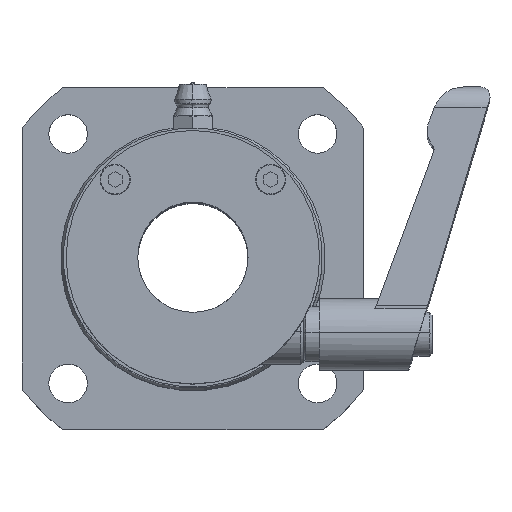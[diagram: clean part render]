
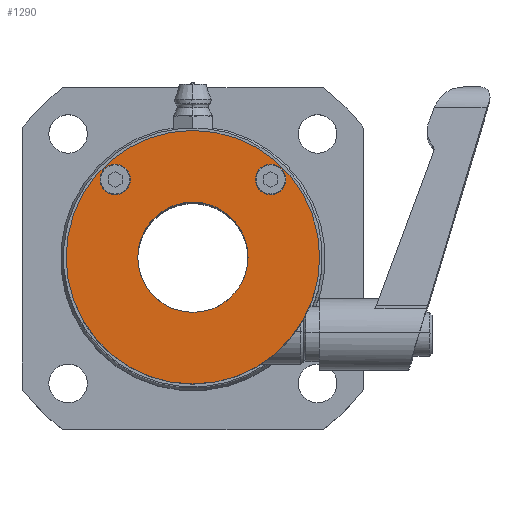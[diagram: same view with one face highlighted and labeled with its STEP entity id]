
A CAD part, top view. The second image highlights one B-rep face of the part: STEP entity #1290.
In plain terms, the highlighted planar face has unit normal (0, 0, 1).
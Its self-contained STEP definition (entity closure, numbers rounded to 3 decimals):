
#30 = CARTESIAN_POINT ( 'NONE',  ( 1.414, 7.231, 52.89 ) ) ;
#181 = DIRECTION ( 'NONE',  ( 0., 0., 1. ) ) ;
#262 = VERTEX_POINT ( 'NONE', #6015 ) ;
#357 = DIRECTION ( 'NONE',  ( 0., -1., 0. ) ) ;
#365 = FACE_OUTER_BOUND ( 'NONE', #8861, .T. ) ;
#383 = ORIENTED_EDGE ( 'NONE', *, *, #7475, .F. ) ;
#457 = DIRECTION ( 'NONE',  ( 1., 0., 0. ) ) ;
#524 = CARTESIAN_POINT ( 'NONE',  ( 15.514, 21.331, 52.89 ) ) ;
#587 = DIRECTION ( 'NONE',  ( 0., 0., 1. ) ) ;
#640 = DIRECTION ( 'NONE',  ( 0., -1., 0. ) ) ;
#895 = CARTESIAN_POINT ( 'NONE',  ( -15.436, 21.331, 52.89 ) ) ;
#1077 = EDGE_CURVE ( 'NONE', #5331, #1772, #7971, .T. ) ;
#1083 = CARTESIAN_POINT ( 'NONE',  ( 1.414, 30.231, 52.89 ) ) ;
#1234 = AXIS2_PLACEMENT_3D ( 'NONE', #2809, #2745, #7185 ) ;
#1290 = ADVANCED_FACE ( 'NONE', ( #5433, #8092, #365, #6366 ), #9823, .T. ) ;
#1406 = VERTEX_POINT ( 'NONE', #1427 ) ;
#1427 = CARTESIAN_POINT ( 'NONE',  ( 1.414, -2.769, 52.89 ) ) ;
#1562 = AXIS2_PLACEMENT_3D ( 'NONE', #7108, #2904, #6355 ) ;
#1735 = DIRECTION ( 'NONE',  ( 0., -1., 0. ) ) ;
#1772 = VERTEX_POINT ( 'NONE', #9275 ) ;
#2189 = AXIS2_PLACEMENT_3D ( 'NONE', #30, #6954, #3533 ) ;
#2525 = EDGE_CURVE ( 'NONE', #7467, #1406, #9821, .T. ) ;
#2572 = CARTESIAN_POINT ( 'NONE',  ( 1.414, 7.231, 52.89 ) ) ;
#2745 = DIRECTION ( 'NONE',  ( 0., 0., 1. ) ) ;
#2809 = CARTESIAN_POINT ( 'NONE',  ( 15.514, 21.331, 52.89 ) ) ;
#2811 = CIRCLE ( 'NONE', #5677, 10. ) ;
#2904 = DIRECTION ( 'NONE',  ( 0., 0., 1. ) ) ;
#3222 = ORIENTED_EDGE ( 'NONE', *, *, #3397, .F. ) ;
#3248 = EDGE_LOOP ( 'NONE', ( #7592, #8229 ) ) ;
#3397 = EDGE_CURVE ( 'NONE', #1406, #7467, #2811, .T. ) ;
#3533 = DIRECTION ( 'NONE',  ( 0., -1., 0. ) ) ;
#3789 = CARTESIAN_POINT ( 'NONE',  ( 1.414, 17.231, 52.89 ) ) ;
#3965 = CARTESIAN_POINT ( 'NONE',  ( 1.414, 7.231, 52.89 ) ) ;
#4772 = DIRECTION ( 'NONE',  ( 0., 0., 1. ) ) ;
#4777 = CIRCLE ( 'NONE', #6245, 23. ) ;
#4948 = CIRCLE ( 'NONE', #1562, 2.75 ) ;
#5240 = EDGE_CURVE ( 'NONE', #262, #10091, #5815, .T. ) ;
#5331 = VERTEX_POINT ( 'NONE', #1083 ) ;
#5433 = FACE_BOUND ( 'NONE', #3248, .T. ) ;
#5567 = ORIENTED_EDGE ( 'NONE', *, *, #2525, .F. ) ;
#5609 = DIRECTION ( 'NONE',  ( 0., -1., 0. ) ) ;
#5677 = AXIS2_PLACEMENT_3D ( 'NONE', #2572, #5987, #1735 ) ;
#5710 = CARTESIAN_POINT ( 'NONE',  ( 18.264, 21.331, 52.89 ) ) ;
#5815 = CIRCLE ( 'NONE', #11109, 2.75 ) ;
#5844 = CARTESIAN_POINT ( 'NONE',  ( 12.764, 21.331, 52.89 ) ) ;
#5987 = DIRECTION ( 'NONE',  ( 0., 0., 1. ) ) ;
#6015 = CARTESIAN_POINT ( 'NONE',  ( -9.936, 21.331, 52.89 ) ) ;
#6064 = CIRCLE ( 'NONE', #1234, 2.75 ) ;
#6235 = EDGE_CURVE ( 'NONE', #1772, #5331, #4777, .T. ) ;
#6245 = AXIS2_PLACEMENT_3D ( 'NONE', #11030, #4772, #5609 ) ;
#6307 = CARTESIAN_POINT ( 'NONE',  ( 1.414, 7.231, 52.89 ) ) ;
#6355 = DIRECTION ( 'NONE',  ( 1., 0., 0. ) ) ;
#6366 = FACE_BOUND ( 'NONE', #9093, .T. ) ;
#6903 = VERTEX_POINT ( 'NONE', #5844 ) ;
#6939 = AXIS2_PLACEMENT_3D ( 'NONE', #6307, #9110, #357 ) ;
#6954 = DIRECTION ( 'NONE',  ( 0., 0., 1. ) ) ;
#7087 = EDGE_LOOP ( 'NONE', ( #383, #9413 ) ) ;
#7108 = CARTESIAN_POINT ( 'NONE',  ( -12.686, 21.331, 52.89 ) ) ;
#7175 = DIRECTION ( 'NONE',  ( 1., 0., 0. ) ) ;
#7185 = DIRECTION ( 'NONE',  ( 1., 0., 0. ) ) ;
#7467 = VERTEX_POINT ( 'NONE', #3789 ) ;
#7475 = EDGE_CURVE ( 'NONE', #10091, #262, #4948, .T. ) ;
#7568 = VERTEX_POINT ( 'NONE', #5710 ) ;
#7592 = ORIENTED_EDGE ( 'NONE', *, *, #10260, .F. ) ;
#7627 = EDGE_CURVE ( 'NONE', #7568, #6903, #8789, .T. ) ;
#7971 = CIRCLE ( 'NONE', #2189, 23. ) ;
#8092 = FACE_BOUND ( 'NONE', #7087, .T. ) ;
#8229 = ORIENTED_EDGE ( 'NONE', *, *, #7627, .F. ) ;
#8362 = DIRECTION ( 'NONE',  ( 0., 0., 1. ) ) ;
#8609 = AXIS2_PLACEMENT_3D ( 'NONE', #524, #8362, #457 ) ;
#8625 = ORIENTED_EDGE ( 'NONE', *, *, #6235, .T. ) ;
#8789 = CIRCLE ( 'NONE', #8609, 2.75 ) ;
#8861 = EDGE_LOOP ( 'NONE', ( #10884, #8625 ) ) ;
#9093 = EDGE_LOOP ( 'NONE', ( #5567, #3222 ) ) ;
#9110 = DIRECTION ( 'NONE',  ( 0., 0., 1. ) ) ;
#9275 = CARTESIAN_POINT ( 'NONE',  ( 1.414, -15.769, 52.89 ) ) ;
#9413 = ORIENTED_EDGE ( 'NONE', *, *, #5240, .F. ) ;
#9761 = CARTESIAN_POINT ( 'NONE',  ( -12.686, 21.331, 52.89 ) ) ;
#9821 = CIRCLE ( 'NONE', #6939, 10. ) ;
#9823 = PLANE ( 'NONE',  #10678 ) ;
#10091 = VERTEX_POINT ( 'NONE', #895 ) ;
#10260 = EDGE_CURVE ( 'NONE', #6903, #7568, #6064, .T. ) ;
#10678 = AXIS2_PLACEMENT_3D ( 'NONE', #3965, #587, #640 ) ;
#10884 = ORIENTED_EDGE ( 'NONE', *, *, #1077, .T. ) ;
#11030 = CARTESIAN_POINT ( 'NONE',  ( 1.414, 7.231, 52.89 ) ) ;
#11109 = AXIS2_PLACEMENT_3D ( 'NONE', #9761, #181, #7175 ) ;
